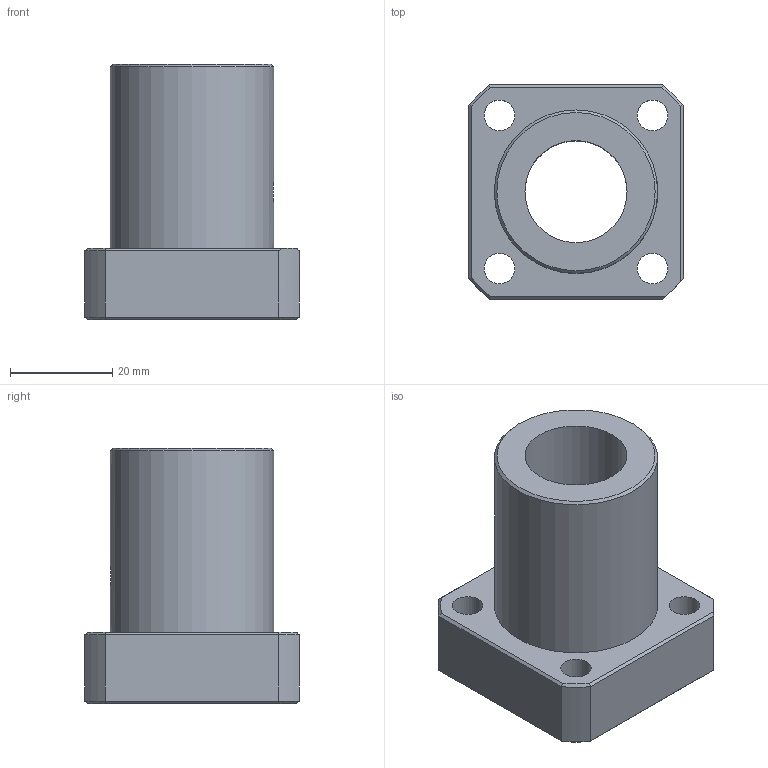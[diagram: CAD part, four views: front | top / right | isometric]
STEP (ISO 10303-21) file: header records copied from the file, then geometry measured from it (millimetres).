
FILE_DESCRIPTION((''),'2;1');
FILE_NAME('D:\製品 (図面)\カタログ用3D\シャフトブロック関連\STEP形式\SFW\SFW20.stp','2010-06-01T16:32:57',('Tsuchiya'),(''),'Autodesk Inventor 10','Autodesk Inventor 10','');
FILE_SCHEMA(('AUTOMOTIVE_DESIGN { 1 0 10303 214 1 1 1 1 }'));
Length unit declared in the file: millimetre
Products named in the file (1): SFW20
Bounding box: 42 x 42 x 50 mm (x, y, z)
Volume: 35841.8 mm3; surface area: 12555.7 mm2
Topology: 1 solids, 1 shells, 52 faces, 128 edges, 82 vertices
Faces by surface type: plane 29, cylinder 10, cone 9, bspline 4
Full cylindrical faces by diameter (mm): 6 x4, 20 x1, 32 x1
Entity records: 1611 total; most frequent: CARTESIAN_POINT 442, DIRECTION 224, ORIENTED_EDGE 222, EDGE_CURVE 111, AXIS2_PLACEMENT_3D 82, EDGE_LOOP 77, VERTEX_POINT 76, VECTOR 60
